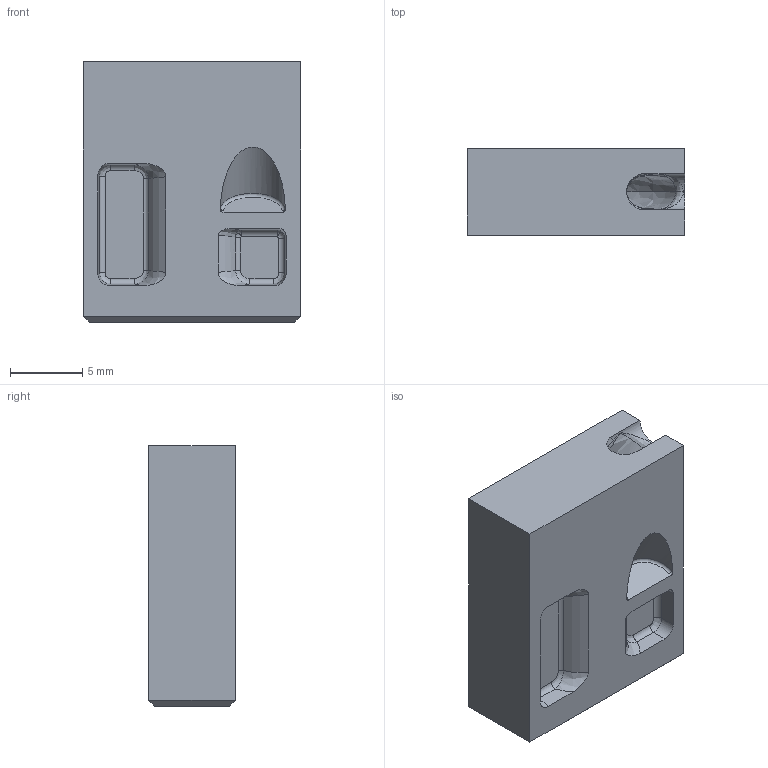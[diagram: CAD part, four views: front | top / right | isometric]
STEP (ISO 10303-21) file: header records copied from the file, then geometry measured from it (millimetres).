
FILE_DESCRIPTION((''),'2;1');
FILE_NAME('TGCS','2005-04-26T',('tmeister'),(''),'PRO/ENGINEER BY PARAMETRIC TECHNOLOGY CORPORATION, 2002390','PRO/ENGINEER BY PARAMETRIC TECHNOLOGY CORPORATION, 2002390','');
FILE_SCHEMA(('CONFIG_CONTROL_DESIGN'));
Length unit declared in the file: millimetre
Products named in the file (1): TGCS
Bounding box: 15 x 6 x 18 mm (x, y, z)
Volume: 1323 mm3; surface area: 1316.3 mm2
Topology: 1 solids, 3 shells, 128 faces, 496 edges, 377 vertices
Faces by surface type: cylinder 39, bspline 38, plane 33, sphere 10, cone 4, revolution 2, torus 2
Entity records: 7513 total; most frequent: CARTESIAN_POINT 3959, DIRECTION 626, ORIENTED_EDGE 578, EDGE_CURVE 292, VECTOR 278, LINE 278, COMPOSITE_CURVE_SEGMENT 191, TRIMMED_CURVE 179
